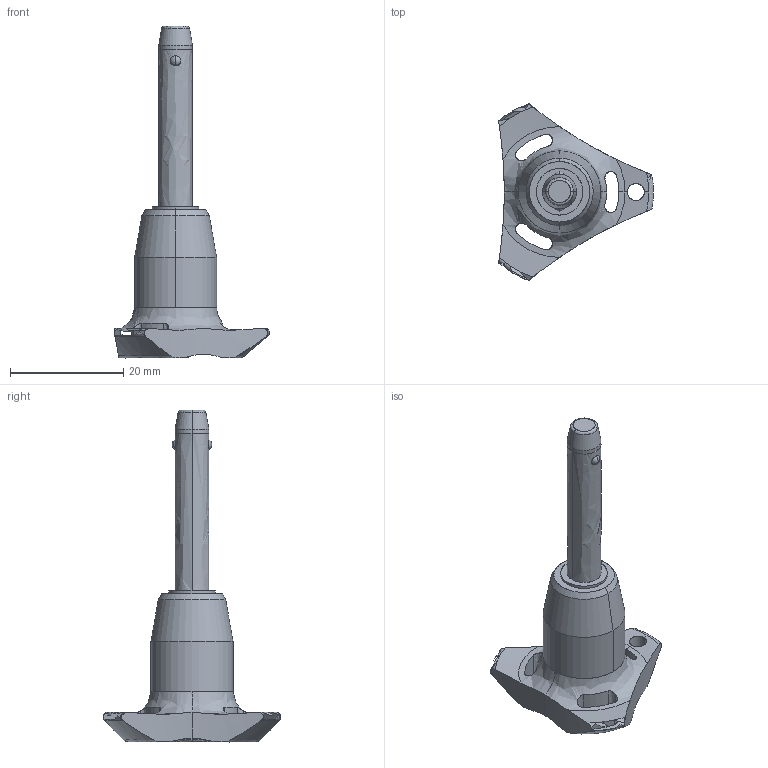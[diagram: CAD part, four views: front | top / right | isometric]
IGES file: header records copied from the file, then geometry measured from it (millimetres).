
Start section: SolidWorks IGES file using analytic representation for surfaces
Global section: file name: C:\Users\ianosborn\Desktop\QR1726_v2\QR1726_v2_20251115_IGES\QR1726.M06-025-T.igs; native system: SolidWorks 2019; preprocessor: SolidWorks 2019; author: IanOsborn; date: 251113.110250; units: millimetre
Bounding box: 27.4 x 31.31 x 58.7 mm (x, y, z)
Surface area: 3024.2 mm2 (no closed solid volume)
Topology: 0 solids, 0 shells, 69 faces, 1327 edges, 1308 vertices
Faces by surface type: revolution 52, bspline 17
